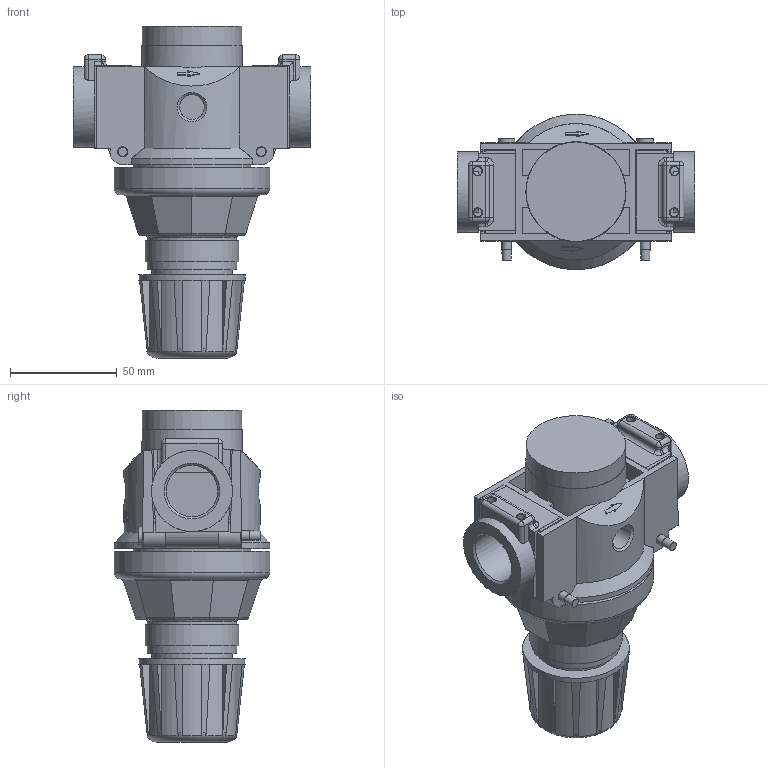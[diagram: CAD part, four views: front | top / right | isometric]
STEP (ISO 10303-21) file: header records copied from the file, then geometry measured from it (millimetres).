
FILE_DESCRIPTION((''),'2;1');
FILE_NAME('F:\AirCom-Produktdokumentation\Druckregler\R20\CAD\CAD AirCom\3D\B-R20-06x.stp','2008-11-12T11:48:40',('Frank Schroers'),(''),'Autodesk Inventor 2008','Autodesk Inventor 2008','');
FILE_SCHEMA(('AUTOMOTIVE_DESIGN { 1 0 10303 214 1 1 1 1 }'));
Length unit declared in the file: millimetre
Products named in the file (4): B-R20-06x; B-R20-00x; B-IK20A-Bolzen; B-IK20B
Assembly tree (5 placements, depth 2):
  B-R20-06x
    B-R20-00x
    B-IK20A-Bolzen  x2
    B-IK20B  x2
Bounding box: 111.26 x 73 x 155.8 mm (x, y, z)
Volume: 412091.3 mm3; surface area: 73463.5 mm2
Topology: 5 solids, 5 shells, 577 faces, 1415 edges, 875 vertices
Faces by surface type: plane 297, cylinder 173, bspline 63, cone 26, torus 10, sphere 8
Full cylindrical faces by diameter (mm): 4 x4, 4.6 x2, 4.7 x4, 4.85 x2, 5.9 x2, 7.8 x2, 11.6 x2, 24.15 x2, 24.2 x2, 24.4 x2, 28 x2, 33.2 x2, 38 x3, 42 x2, 43.8 x1, 46.7 x1, 47 x1, 50 x1, 55 x1, 73 x1
Entity records: 22539 total; most frequent: CARTESIAN_POINT 11893, ORIENTED_EDGE 2170, DIRECTION 2131, EDGE_CURVE 1085, AXIS2_PLACEMENT_3D 771, VERTEX_POINT 698, VECTOR 589, LINE 589
